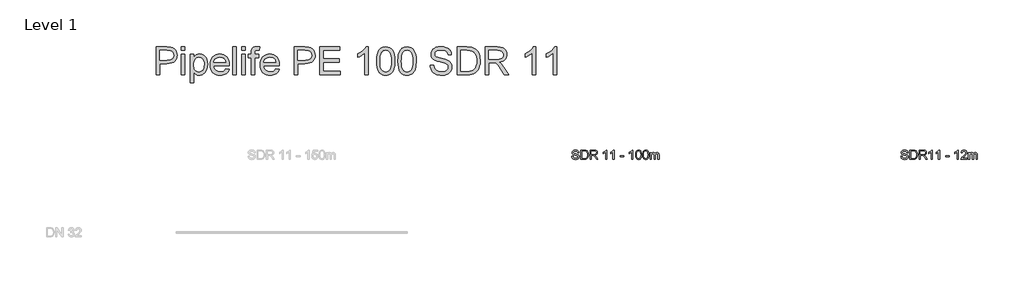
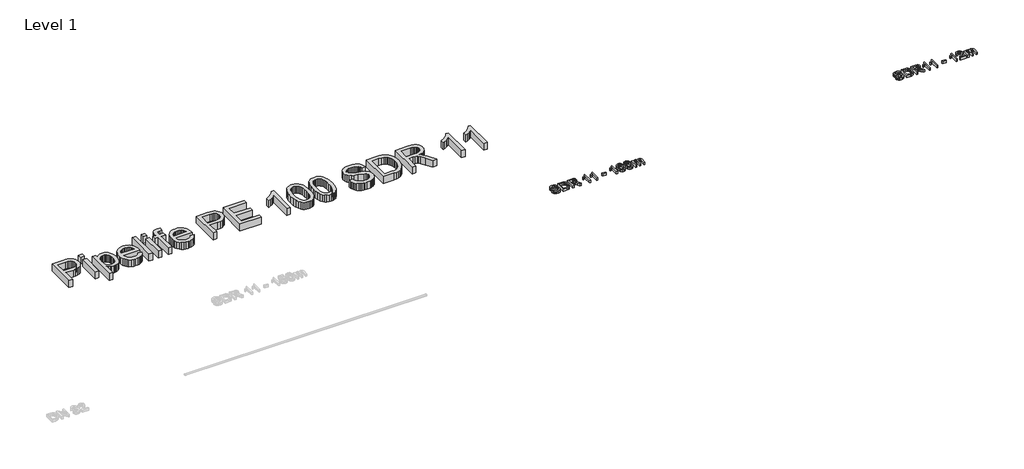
# One storey, part 25 of 26: 3 proxies.
"""IFC4 building model written with IfcOpenShell, lengths in millimetres."""

from ifc_helpers import new_model, si_unit, origin, origin_with_axes, place, context, project, spatial, polyline, outline, extrude, element, save

model = new_model("IFC4")

# Units and contexts
model_context = context("Model", 3, world=origin())
ifc_project = project(units=[si_unit("LENGTHUNIT", "METRE", prefix="MILLI")], contexts=[model_context])

# Site, building, storey
site = spatial("IfcSite", under=ifc_project)
building = spatial("IfcBuilding", under=site)
storey = spatial("IfcBuildingStorey", under=building, Name="Level 1", Elevation=0.0)

# Proxies
placement = place(None, origin())
element("IfcBuildingElementProxy", 1, Name="200mm Arial", ObjectType="200mm Arial", at=placement, inside=storey, context=model_context, shape_type="SweptSolid", body=[
    extrude(outline(polyline([(-7979.1539224, 2231.0128426), (-7954.0398449, 2231.0128426), (-7945.946441, 2205.8742396), (-7937.8162489, 2196.983758), (-7926.1789151, 2189.9817374), (-7911.9541446, 2185.4383947), (-7896.0616424, 2183.9239472), (-7869.8193934, 2188.5102094), (-7852.8722962, 2201.1162991), (-7847.3050153, 2217.9652945), (-7851.4743446, 2233.6370675), (-7857.8264404, 2239.8358791), (-7868.5440692, 2245.0414093), (-7905.1115395, 2254.6308667), (-7944.474913, 2267.0162272), (-7956.9767695, 2275.4652503), (-7965.8365942, 2285.7046325), (-7971.1157008, 2297.5136446), (-7972.875403, 2310.6715573), (-7970.6987679, 2325.3807057), (-7964.1688625, 2339.0965728), (-7953.457365, 2350.7216438), (-7938.7359539, 2359.1584042), (-7921.0653554, 2364.2903581), (-7901.506296, 2366.0010093), (-7880.316293, 2364.2106503), (-7861.7750405, 2358.8395732), (-7846.5447259, 2349.9981425), (-7835.2875368, 2337.796723), (-7828.1628889, 2322.9956041), (-7825.3301975, 2306.3550752), (-7850.444275, 2306.3550752), (-7855.0550627, 2321.3401351), (-7864.6690455, 2332.1558658), (-7879.6908936, 2338.7041653), (-7900.5252773, 2340.8869318), (-7921.8501703, 2338.7286908), (-7936.479611, 2332.2539676), (-7944.9408969, 2322.725824), (-7947.7613255, 2311.4073212), (-7945.7625, 2301.7565502), (-7939.7660235, 2293.9942401), (-7925.5903039, 2287.0535332), (-7898.7594437, 2279.9656734), (-7854.3192987, 2267.3595837), (-7840.0025577, 2258.2483729), (-7830.0145616, 2247.0034466), (-7824.1468437, 2233.7474321), (-7822.1909378, 2218.6029566), (-7824.4411493, 2203.121256), (-7831.1917839, 2188.5592603), (-7842.1669301, 2176.026747), (-7857.0906764, 2166.6334934), (-7875.0371864, 2160.7657756), (-7895.0806238, 2158.8098696), (-7919.6857979, 2160.9190598), (-7939.9377017, 2167.2466301), (-7956.0693272, 2177.8171061), (-7968.3136663, 2192.6550132), (-7976.1740782, 2210.7302819), (-7979.1539224, 2231.0128426)])), origin_with_axes(), (0.0, 0.0, 1.0), 50.0),
    extrude(outline(polyline([(-7784.5198215, 2161.9491293), (-7784.5198215, 2362.8617496), (-7715.2108536, 2362.8617496), (-7679.3546218, 2359.9677446), (-7663.3394923, 2354.388201), (-7649.8259603, 2345.5958213), (-7635.9322836, 2330.2919303), (-7626.036258, 2311.2601685), (-7620.1133578, 2288.8684177), (-7618.1390578, 2263.48456), (-7623.4856095, 2222.9439641), (-7637.2198706, 2193.6850828), (-7655.5649194, 2175.4626613), (-7679.575351, 2165.3826946), (-7711.8753902, 2161.9491293), (-7784.5198215, 2161.9491293)]), holes=[polyline([(-7759.405744, 2187.0632069), (-7714.9655989, 2187.0632069), (-7682.6410343, 2190.6929759), (-7664.0016799, 2200.9446208), (-7655.2767452, 2211.8155338), (-7648.7223143, 2225.8870201), (-7644.6204301, 2243.2203934), (-7643.2531353, 2263.8769675), (-7645.9325425, 2291.2473879), (-7653.9707641, 2311.4563722), (-7665.8472212, 2325.3377861), (-7680.0413349, 2333.7254956), (-7715.652312, 2337.7476721), (-7759.405744, 2337.7476721), (-7759.405744, 2187.0632069)])]), origin_with_axes(), (0.0, 0.0, 1.0), 50.0),
    extrude(outline(polyline([(-7583.6072012, 2161.9491293), (-7583.6072012, 2362.8617496), (-7497.032305, 2362.8617496), (-7473.7637688, 2361.5067176), (-7456.8350657, 2357.4416216), (-7444.4619679, 2349.9368289), (-7434.8602478, 2338.2627069), (-7428.6982244, 2323.7865504), (-7426.6442166, 2307.8756541), (-7430.047125, 2288.0836028), (-7440.2558504, 2271.6760658), (-7457.576961, 2259.6463245), (-7482.3170252, 2252.9876604), (-7468.0432038, 2242.2455062), (-7447.6870667, 2216.3956646), (-7414.1852797, 2161.9491293), (-7443.3705846, 2161.9491293), (-7469.5147318, 2203.5933712), (-7488.3993408, 2231.1599954), (-7501.6676181, 2244.183018), (-7513.6115202, 2248.9654839), (-7528.1796473, 2249.8484007), (-7558.4931237, 2249.8484007), (-7558.4931237, 2161.9491293), (-7583.6072012, 2161.9491293)]), holes=[polyline([(-7558.4931237, 2274.9624783), (-7502.2807548, 2274.9624783), (-7473.6104846, 2278.5186709), (-7464.1804428, 2283.1417213), (-7457.325575, 2289.8984873), (-7451.7582941, 2306.9436864), (-7454.4131759, 2319.1941568), (-7462.377821, 2329.065657), (-7476.0814254, 2335.5771683), (-7495.9531845, 2337.7476721), (-7558.4931237, 2337.7476721), (-7558.4931237, 2274.9624783)])]), origin_with_axes(), (0.0, 0.0, 1.0), 50.0),
    extrude(outline(polyline([(-7219.4530769, 2161.9491293), (-7244.5671544, 2161.9491293), (-7244.5671544, 2318.5197065), (-7268.3568568, 2301.5726092), (-7294.7953095, 2288.8929431), (-7294.7953095, 2312.6335946), (-7257.9825845, 2336.1289913), (-7244.5119721, 2349.7038369), (-7235.6398847, 2362.8617496), (-7219.4530769, 2362.8617496), (-7219.4530769, 2161.9491293)])), origin_with_axes(), (0.0, 0.0, 1.0), 50.0),
    extrude(outline(polyline([(-7065.629352, 2161.9491293), (-7090.7434295, 2161.9491293), (-7090.7434295, 2318.5197065), (-7114.5331319, 2301.5726092), (-7140.9715846, 2288.8929431), (-7140.9715846, 2312.6335946), (-7104.1588596, 2336.1289913), (-7090.6882472, 2349.7038369), (-7081.8161598, 2362.8617496), (-7065.629352, 2362.8617496), (-7065.629352, 2161.9491293)])), origin_with_axes(), (0.0, 0.0, 1.0), 50.0),
    extrude(outline(polyline([(-6933.7804449, 2221.5950635), (-6933.7804449, 2246.709141), (-6855.2989526, 2246.709141), (-6855.2989526, 2221.5950635), (-6933.7804449, 2221.5950635)])), origin_with_axes(), (0.0, 0.0, 1.0), 50.0),
    extrude(outline(polyline([(-6660.6648517, 2161.9491293), (-6685.7789292, 2161.9491293), (-6685.7789292, 2318.5197065), (-6709.5686316, 2301.5726092), (-6736.0070843, 2288.8929431), (-6736.0070843, 2312.6335946), (-6699.1943593, 2336.1289913), (-6685.7237469, 2349.7038369), (-6676.8516595, 2362.8617496), (-6660.6648517, 2362.8617496), (-6660.6648517, 2161.9491293)])), origin_with_axes(), (0.0, 0.0, 1.0), 50.0),
    extrude(outline(polyline([(-6601.0189175, 2260.7867587), (-6599.1733762, 2292.9457765), (-6593.6367522, 2318.5932829), (-6584.4642278, 2338.1216855), (-6571.7109853, 2351.9233917), (-6555.2850542, 2360.1271601), (-6535.094464, 2362.8617496), (-6519.6188947, 2361.2430689), (-6505.7620063, 2356.3870265), (-6494.1737234, 2348.483695), (-6485.5039711, 2337.7231466), (-6473.7317472, 2307.9982814), (-6469.1700105, 2260.7867587), (-6470.9971577, 2228.811682), (-6476.4785994, 2203.2254892), (-6485.5959416, 2183.6786925), (-6498.33079, 2169.821804), (-6514.7935092, 2161.5628532), (-6535.094464, 2158.8098696), (-6561.1895602, 2163.5923356), (-6581.006137, 2177.9397334), (-6589.7617285, 2193.0688805), (-6596.0157224, 2211.919767), (-6601.0189175, 2260.7867587)]), holes=[polyline([(-6575.90484, 2260.8358096), (-6572.961784, 2221.3314147), (-6564.1326162, 2198.4675487), (-6550.9869662, 2187.5598476), (-6535.094464, 2183.9239472), (-6519.2019618, 2187.5721103), (-6506.0563119, 2198.5165997), (-6497.227144, 2221.3927284), (-6494.284088, 2260.8358096), (-6497.1290421, 2299.4511564), (-6505.6639044, 2322.492832), (-6518.7850289, 2333.9339621), (-6535.3887696, 2337.7476721), (-6551.1095935, 2334.3876832), (-6563.7402087, 2324.3077165), (-6572.8636822, 2299.8313011), (-6575.90484, 2260.8358096)])]), origin_with_axes(), (0.0, 0.0, 1.0), 50.0),
    extrude(outline(polyline([(-6447.1951926, 2260.7867587), (-6445.3496513, 2292.9457765), (-6439.8130273, 2318.5932829), (-6430.6405028, 2338.1216855), (-6417.8872603, 2351.9233917), (-6401.4613293, 2360.1271601), (-6381.2707391, 2362.8617496), (-6365.7951698, 2361.2430689), (-6351.9382813, 2356.3870265), (-6340.3499985, 2348.483695), (-6331.6802461, 2337.7231466), (-6319.9080223, 2307.9982814), (-6315.3462856, 2260.7867587), (-6317.1734328, 2228.811682), (-6322.6548745, 2203.2254892), (-6331.7722166, 2183.6786925), (-6344.507065, 2169.821804), (-6360.9697843, 2161.5628532), (-6381.2707391, 2158.8098696), (-6407.3658353, 2163.5923356), (-6427.1824121, 2177.9397334), (-6435.9380036, 2193.0688805), (-6442.1919975, 2211.919767), (-6447.1951926, 2260.7867587)]), holes=[polyline([(-6422.0811151, 2260.8358096), (-6419.1380591, 2221.3314147), (-6410.3088912, 2198.4675487), (-6397.1632413, 2187.5598476), (-6381.2707391, 2183.9239472), (-6365.3782369, 2187.5721103), (-6352.2325869, 2198.5165997), (-6343.4034191, 2221.3927284), (-6340.4603631, 2260.8358096), (-6343.3053172, 2299.4511564), (-6351.8401795, 2322.492832), (-6364.961304, 2333.9339621), (-6381.5650447, 2337.7476721), (-6397.2858686, 2334.3876832), (-6409.9164838, 2324.3077165), (-6419.0399573, 2299.8313011), (-6422.0811151, 2260.8358096)])]), origin_with_axes(), (0.0, 0.0, 1.0), 50.0),
    extrude(outline(polyline([(-6287.0929483, 2161.9491293), (-6287.0929483, 2309.4943349), (-6261.9788708, 2309.4943349), (-6261.9788708, 2285.2141232), (-6254.4250272, 2296.367079), (-6244.7129425, 2305.1042764), (-6233.1737106, 2310.751265), (-6220.1384252, 2312.6335946), (-6206.1711721, 2310.7144768), (-6194.9752967, 2304.9571236), (-6186.6121127, 2295.7416796), (-6181.1429337, 2283.4482896), (-6171.9888034, 2296.2168605), (-6161.5470861, 2305.3372683), (-6149.8177818, 2310.809513), (-6136.8008906, 2312.6335946), (-6117.9224128, 2309.5985681), (-6103.9612911, 2300.4934887), (-6095.3344583, 2285.0731018), (-6092.4588474, 2263.0921525), (-6092.4588474, 2161.9491293), (-6117.5729249, 2161.9491293), (-6117.5729249, 2252.3009474), (-6119.9028442, 2273.2702211), (-6128.3396047, 2283.5954424), (-6142.6870025, 2287.519517), (-6156.2925049, 2285.0056567), (-6167.3841471, 2277.4640758), (-6174.7601811, 2264.3797395), (-6177.2188591, 2245.237613), (-6177.2188591, 2161.9491293), (-6202.3329366, 2161.9491293), (-6202.3329366, 2255.0968505), (-6203.7860705, 2269.2970955), (-6208.1454722, 2279.4261131), (-6215.8158118, 2285.4961661), (-6227.2017595, 2287.519517), (-6245.792063, 2282.1239144), (-6253.1497029, 2275.4775131), (-6258.152898, 2266.3295141), (-6261.9788708, 2236.3593942), (-6261.9788708, 2161.9491293), (-6287.0929483, 2161.9491293)])), origin_with_axes(), (0.0, 0.0, 1.0), 50.0),
])
element("IfcBuildingElementProxy", 2, Name="200mm Arial", ObjectType="200mm Arial", at=placement, inside=storey, context=model_context, shape_type="SweptSolid", body=[
    extrude(outline(polyline([(-863.0013138, 2231.0128426), (-837.8872363, 2231.0128426), (-829.7938324, 2205.8742396), (-821.6636403, 2196.983758), (-810.0263065, 2189.9817374), (-795.801536, 2185.4383947), (-779.9090338, 2183.9239472), (-753.6667848, 2188.5102094), (-736.7196876, 2201.1162991), (-731.1524067, 2217.9652945), (-735.321736, 2233.6370675), (-741.6738318, 2239.8358791), (-752.3914606, 2245.0414093), (-788.9589309, 2254.6308667), (-828.3223044, 2267.0162272), (-840.8241609, 2275.4652503), (-849.6839856, 2285.7046325), (-854.9630922, 2297.5136446), (-856.7227944, 2310.6715573), (-854.5461593, 2325.3807057), (-848.0162539, 2339.0965728), (-837.3047564, 2350.7216438), (-822.5833453, 2359.1584042), (-804.9127468, 2364.2903581), (-785.3536873, 2366.0010093), (-764.1636844, 2364.2106503), (-745.6224319, 2358.8395732), (-730.3921173, 2349.9981425), (-719.1349282, 2337.796723), (-712.0102802, 2322.9956041), (-709.1775889, 2306.3550752), (-734.2916664, 2306.3550752), (-738.9024541, 2321.3401351), (-748.5164369, 2332.1558658), (-763.538285, 2338.7041653), (-784.3726687, 2340.8869318), (-805.6975617, 2338.7286908), (-820.3270024, 2332.2539676), (-828.7882882, 2322.725824), (-831.6087169, 2311.4073212), (-829.6098914, 2301.7565502), (-823.6134148, 2293.9942401), (-809.4376953, 2287.0535332), (-782.6068351, 2279.9656734), (-738.1666901, 2267.3595837), (-723.8499491, 2258.2483729), (-713.861953, 2247.0034466), (-707.9942351, 2233.7474321), (-706.0383292, 2218.6029566), (-708.2885407, 2203.121256), (-715.0391753, 2188.5592603), (-726.0143215, 2176.026747), (-740.9380678, 2166.6334934), (-758.8845778, 2160.7657756), (-778.9280152, 2158.8098696), (-803.5331893, 2160.9190598), (-823.7850931, 2167.2466301), (-839.9167186, 2177.8171061), (-852.1610577, 2192.6550132), (-860.0214696, 2210.7302819), (-863.0013138, 2231.0128426)])), origin_with_axes(), (0.0, 0.0, 1.0), 50.0),
    extrude(outline(polyline([(-668.3672129, 2161.9491293), (-668.3672129, 2362.8617496), (-599.058245, 2362.8617496), (-563.2020132, 2359.9677446), (-547.1868837, 2354.388201), (-533.6733517, 2345.5958213), (-519.779675, 2330.2919303), (-509.8836494, 2311.2601685), (-503.9607492, 2288.8684177), (-501.9864492, 2263.48456), (-507.3330009, 2222.9439641), (-521.067262, 2193.6850828), (-539.4123108, 2175.4626613), (-563.4227424, 2165.3826946), (-595.7227816, 2161.9491293), (-668.3672129, 2161.9491293)]), holes=[polyline([(-643.2531353, 2187.0632069), (-598.8129903, 2187.0632069), (-566.4884257, 2190.6929759), (-547.8490713, 2200.9446208), (-539.1241366, 2211.8155338), (-532.5697057, 2225.8870201), (-528.4678215, 2243.2203934), (-527.1005267, 2263.8769675), (-529.7799339, 2291.2473879), (-537.8181555, 2311.4563722), (-549.6946126, 2325.3377861), (-563.8887263, 2333.7254956), (-599.4997034, 2337.7476721), (-643.2531353, 2337.7476721), (-643.2531353, 2187.0632069)])]), origin_with_axes(), (0.0, 0.0, 1.0), 50.0),
    extrude(outline(polyline([(-467.4545926, 2161.9491293), (-467.4545926, 2362.8617496), (-380.8796964, 2362.8617496), (-357.6111602, 2361.5067176), (-340.682457, 2357.4416216), (-328.3093593, 2349.9368289), (-318.7076392, 2338.2627069), (-312.5456158, 2323.7865504), (-310.491608, 2307.8756541), (-313.8945164, 2288.0836028), (-324.1032418, 2271.6760658), (-341.4243524, 2259.6463245), (-366.1644166, 2252.9876604), (-351.8905952, 2242.2455062), (-331.5344581, 2216.3956646), (-298.0326711, 2161.9491293), (-327.217976, 2161.9491293), (-353.3621231, 2203.5933712), (-372.2467322, 2231.1599954), (-385.5150095, 2244.183018), (-397.4589116, 2248.9654839), (-412.0270386, 2249.8484007), (-442.340515, 2249.8484007), (-442.340515, 2161.9491293), (-467.4545926, 2161.9491293)]), holes=[polyline([(-442.340515, 2274.9624783), (-386.1281462, 2274.9624783), (-357.457876, 2278.5186709), (-348.0278342, 2283.1417213), (-341.1729664, 2289.8984873), (-335.6056855, 2306.9436864), (-338.2605672, 2319.1941568), (-346.2252124, 2329.065657), (-359.9288168, 2335.5771683), (-379.8005759, 2337.7476721), (-442.340515, 2337.7476721), (-442.340515, 2274.9624783)])]), origin_with_axes(), (0.0, 0.0, 1.0), 50.0),
    extrude(outline(polyline([(-181.7819606, 2161.9491293), (-206.8960381, 2161.9491293), (-206.8960381, 2318.5197065), (-230.6857405, 2301.5726092), (-257.1241932, 2288.8929431), (-257.1241932, 2312.6335946), (-220.3114682, 2336.1289913), (-206.8408558, 2349.7038369), (-197.9687684, 2362.8617496), (-181.7819606, 2362.8617496), (-181.7819606, 2161.9491293)])), origin_with_axes(), (0.0, 0.0, 1.0), 50.0),
    extrude(outline(polyline([(-27.9582357, 2161.9491293), (-53.0723132, 2161.9491293), (-53.0723132, 2318.5197065), (-76.8620156, 2301.5726092), (-103.3004683, 2288.8929431), (-103.3004683, 2312.6335946), (-66.4877433, 2336.1289913), (-53.0171309, 2349.7038369), (-44.1450435, 2362.8617496), (-27.9582357, 2362.8617496), (-27.9582357, 2161.9491293)])), origin_with_axes(), (0.0, 0.0, 1.0), 50.0),
    extrude(outline(polyline([(103.8906714, 2221.5950635), (103.8906714, 2246.709141), (182.3721637, 2246.709141), (182.3721637, 2221.5950635), (103.8906714, 2221.5950635)])), origin_with_axes(), (0.0, 0.0, 1.0), 50.0),
    extrude(outline(polyline([(377.0062646, 2161.9491293), (351.8921871, 2161.9491293), (351.8921871, 2318.5197065), (328.1024847, 2301.5726092), (301.664032, 2288.8929431), (301.664032, 2312.6335946), (338.476757, 2336.1289913), (351.9473694, 2349.7038369), (360.8194568, 2362.8617496), (377.0062646, 2362.8617496), (377.0062646, 2161.9491293)])), origin_with_axes(), (0.0, 0.0, 1.0), 50.0),
    extrude(outline(polyline([(565.3618461, 2187.0632069), (565.3618461, 2161.9491293), (433.5129391, 2161.9491293), (436.2107404, 2179.2641086), (451.4655804, 2205.9232905), (482.9072283, 2235.0350191), (526.2682528, 2276.8754646), (534.3984449, 2291.2964388), (537.1085089, 2305.3250056), (534.551729, 2317.9004385), (526.8813894, 2328.3544185), (515.0907715, 2335.3993587), (500.1731566, 2337.7476721), (484.507515, 2335.454541), (472.3367523, 2328.5751477), (464.4824717, 2317.6490524), (461.7662763, 2303.2158155), (436.6521988, 2306.3550752), (442.7406458, 2330.6475496), (455.9046898, 2348.3917245), (475.4576179, 2359.2442434), (500.7127169, 2362.8617496), (526.1517568, 2358.8395732), (545.6678967, 2346.7730437), (558.083914, 2328.746826), (562.2225865, 2306.8455845), (557.7589516, 2283.0313567), (542.9210444, 2258.4077885), (506.9421853, 2223.9985592), (478.051186, 2199.8409748), (466.7204205, 2187.0632069), (565.3618461, 2187.0632069)])), origin_with_axes(), (0.0, 0.0, 1.0), 50.0),
    extrude(outline(polyline([(596.7544431, 2161.9491293), (596.7544431, 2309.4943349), (621.8685206, 2309.4943349), (621.8685206, 2285.2141232), (629.4223642, 2296.367079), (639.1344489, 2305.1042764), (650.6736808, 2310.751265), (663.7089662, 2312.6335946), (677.6762193, 2310.7144768), (688.8720947, 2304.9571236), (697.2352787, 2295.7416796), (702.7044577, 2283.4482896), (711.858588, 2296.2168605), (722.3003053, 2305.3372683), (734.0296096, 2310.809513), (747.0465008, 2312.6335946), (765.9249785, 2309.5985681), (779.8861003, 2300.4934887), (788.5129331, 2285.0731018), (791.388544, 2263.0921525), (791.388544, 2161.9491293), (766.2744664, 2161.9491293), (766.2744664, 2252.3009474), (763.9445471, 2273.2702211), (755.5077867, 2283.5954424), (741.1603889, 2287.519517), (727.5548865, 2285.0056567), (716.4632443, 2277.4640758), (709.0872103, 2264.3797395), (706.6285323, 2245.237613), (706.6285323, 2161.9491293), (681.5144548, 2161.9491293), (681.5144548, 2255.0968505), (680.0613209, 2269.2970955), (675.7019192, 2279.4261131), (668.0315796, 2285.4961661), (656.6456319, 2287.519517), (638.0553284, 2282.1239144), (630.6976885, 2275.4775131), (625.6944934, 2266.3295141), (621.8685206, 2236.3593942), (621.8685206, 2161.9491293), (596.7544431, 2161.9491293)])), origin_with_axes(), (0.0, 0.0, 1.0), 50.0),
])
element("IfcBuildingElementProxy", 3, Name="600mm Arial", ObjectType="600mm Arial", at=placement, inside=storey, context=model_context, shape_type="SweptSolid", body=[
    extrude(outline(polyline([(-16966.7426717, 3990.4626098), (-16966.7426717, 4593.2004707), (-16743.3647242, 4593.2004707), (-16691.3462101, 4591.7657309), (-16653.3072118, 4587.4615116), (-16613.152892, 4576.7377514), (-16580.0986947, 4559.2817508), (-16553.4824324, 4534.3025633), (-16532.6419174, 4501.0092427), (-16519.1774363, 4461.7378398), (-16514.689276, 4418.824405), (-16517.7197039, 4381.8246734), (-16526.8109877, 4347.7863917), (-16541.9631274, 4316.7095602), (-16563.176123, 4288.5941787), (-16592.2985814, 4265.2888543), (-16631.1791098, 4248.642194), (-16679.8177081, 4238.6541979), (-16738.2143763, 4235.3248658), (-16891.4004391, 4235.3248658), (-16891.4004391, 3990.4626098), (-16966.7426717, 3990.4626098)]), holes=[polyline([(-16891.4004391, 4310.6670984), (-16733.7997923, 4310.6670984), (-16697.5634158, 4312.3961438), (-16666.992422, 4317.5832799), (-16642.0868109, 4326.2285068), (-16622.8465826, 4338.3318245), (-16608.4899877, 4353.5713361), (-16598.2352771, 4371.625145), (-16592.0824507, 4392.4932512), (-16590.0315086, 4416.1756547), (-16594.8691569, 4450.0207982), (-16609.3821016, 4478.568441), (-16631.767721, 4500.0527496), (-16660.2233933, 4512.7078902), (-16689.2860709, 4516.5706511), (-16735.5656259, 4517.8582381), (-16891.4004391, 4517.8582381), (-16891.4004391, 4310.6670984)])]), origin_with_axes(), (0.0, 0.0, 1.0), 150.0),
    extrude(outline(polyline([(-16420.5114852, 3990.4626098), (-16420.5114852, 4433.0982264), (-16345.1692526, 4433.0982264), (-16345.1692526, 3990.4626098), (-16420.5114852, 3990.4626098)])), origin_with_axes(), (0.0, 0.0, 1.0), 150.0),
    extrude(outline(polyline([(-16420.5114852, 4517.8582381), (-16420.5114852, 4593.2004707), (-16345.1692526, 4593.2004707), (-16345.1692526, 4517.8582381), (-16420.5114852, 4517.8582381)])), origin_with_axes(), (0.0, 0.0, 1.0), 150.0),
    extrude(outline(polyline([(-16232.1559037, 3820.9425865), (-16232.1559037, 4433.0982264), (-16156.8136711, 4433.0982264), (-16156.8136711, 4359.2275218), (-16132.2391538, 4395.6662334), (-16104.7215806, 4421.6938846), (-16072.6422706, 4437.3104753), (-16034.3825431, 4442.5160055), (-16008.1065716, 4440.6949896), (-15983.4308868, 4435.231942), (-15960.3554886, 4426.1268626), (-15938.8803772, 4413.3797515), (-15919.4746019, 4397.3217024), (-15902.6072124, 4378.2838091), (-15888.2782087, 4356.2660717), (-15876.4875908, 4331.2684902), (-15860.7054532, 4275.7550971), (-15855.4447407, 4215.1649325), (-15861.3860349, 4150.730401), (-15868.8126526, 4121.0653166), (-15879.2099175, 4093.1016865), (-15892.4352753, 4067.570676), (-15908.3461716, 4045.2034507), (-15926.9426064, 4026.0000106), (-15948.2245798, 4009.9603556), (-15971.1482267, 3997.3098135), (-15994.6696817, 3988.273712), (-16018.788945, 3982.8520511), (-16043.5060166, 3981.0448308), (-16078.1421064, 3985.882479), (-16109.0625881, 4000.3954237), (-16135.5316977, 4022.3027965), (-16156.8136711, 4049.3237291), (-16156.8136711, 3820.9425865), (-16232.1559037, 3820.9425865)]), holes=[polyline([(-16156.8136711, 4208.248751), (-16154.7765246, 4171.9387981), (-16148.6650849, 4140.7056167), (-16138.4793522, 4114.5492068), (-16124.2193263, 4093.4695685), (-16107.0530327, 4077.2459725), (-16088.1484967, 4065.6576896), (-16067.5057182, 4058.7047199), (-16045.1246974, 4056.3870634), (-16022.4217797, 4058.7874934), (-16001.4019222, 4065.9887834), (-15982.0651249, 4077.9909335), (-15964.4113876, 4094.7939437), (-15949.7007063, 4116.6369371), (-15939.1930769, 4143.7590372), (-15932.8884992, 4176.1602439), (-15930.7869733, 4213.8405573), (-15932.8379154, 4249.8378105), (-15938.9907418, 4281.0158096), (-15949.2454524, 4307.3745546), (-15963.6020472, 4328.9140454), (-15980.8097276, 4345.6526762), (-15999.6176946, 4357.608841), (-16020.0259482, 4364.7825399), (-16042.0344886, 4367.1737729), (-16063.9740511, 4364.6307886), (-16084.6168295, 4357.0018357), (-16103.962824, 4344.2869143), (-16122.0120344, 4326.4860242), (-16137.2377504, 4303.8382889), (-16148.1132619, 4276.5828316), (-16154.6385688, 4244.7196523), (-16156.8136711, 4208.248751)])]), origin_with_axes(), (0.0, 0.0, 1.0), 150.0),
    extrude(outline(polyline([(-15460.7809362, 4122.3115169), (-15386.9102316, 4112.8937378), (-15398.2363985, 4083.3068284), (-15413.5264939, 4057.233192), (-15432.7805179, 4034.6728286), (-15455.9984703, 4015.6257383), (-15482.9412279, 4000.4965913), (-15513.3696674, 3989.6900576), (-15547.2837889, 3983.2061375), (-15584.6835922, 3981.0448308), (-15631.4321967, 3984.7742345), (-15673.0856356, 3995.9624457), (-15709.6439089, 4014.6094643), (-15741.1070165, 4040.7152904), (-15766.4081008, 4073.553357), (-15784.4803038, 4112.3970971), (-15795.3236256, 4157.2465109), (-15798.9380662, 4208.1015982), (-15795.2868374, 4260.6811323), (-15784.333151, 4307.0250667), (-15766.077007, 4347.1334012), (-15740.5184054, 4381.0061359), (-15709.1380712, 4407.9167039), (-15673.4167294, 4427.1385381), (-15633.3543802, 4438.6716387), (-15588.9510233, 4442.5160055), (-15545.9778078, 4438.6808357), (-15507.1156735, 4427.1753263), (-15472.3646205, 4407.9994773), (-15441.7246489, 4381.1532887), (-15416.7132717, 4347.3541304), (-15398.8480023, 4307.3193723), (-15388.1288407, 4261.0490143), (-15384.5557868, 4208.5430566), (-15384.9972452, 4188.2359704), (-15723.5958336, 4188.2359704), (-15719.2318334, 4158.1708144), (-15710.5544168, 4131.8396606), (-15697.5635839, 4109.242509), (-15680.2593345, 4090.3793597), (-15659.598162, 4075.5077301), (-15636.5365594, 4064.8851375), (-15611.0745268, 4058.5115819), (-15583.2120642, 4056.3870634), (-15543.1129267, 4060.3234007), (-15509.3413596, 4072.1324128), (-15481.8973627, 4092.5498635), (-15460.7809362, 4122.3115169)]), holes=[polyline([(-15723.5958336, 4263.5782031), (-15459.8980194, 4263.5782031), (-15470.0883507, 4303.3830349), (-15478.8531392, 4319.0364138), (-15490.064343, 4331.8571014), (-15510.6105525, 4347.3081452), (-15533.9894533, 4358.344605), (-15560.2010454, 4364.9664809), (-15589.2453289, 4367.1737729), (-15615.7374311, 4365.4125378), (-15640.0314384, 4360.1288327), (-15662.1273507, 4351.3226574), (-15682.0251681, 4338.9940121), (-15698.7224122, 4323.7131137), (-15711.2166044, 4306.0501794), (-15719.5077449, 4286.0052092), (-15723.5958336, 4263.5782031)])]), origin_with_axes(), (0.0, 0.0, 1.0), 150.0),
    extrude(outline(polyline([(-15309.2135542, 3990.4626098), (-15309.2135542, 4593.2004707), (-15233.8713216, 4593.2004707), (-15233.8713216, 3990.4626098), (-15309.2135542, 3990.4626098)])), origin_with_axes(), (0.0, 0.0, 1.0), 150.0),
    extrude(outline(polyline([(-15120.8579727, 4517.8582381), (-15120.8579727, 4593.2004707), (-15045.5157401, 4593.2004707), (-15045.5157401, 4517.8582381), (-15120.8579727, 4517.8582381)])), origin_with_axes(), (0.0, 0.0, 1.0), 150.0),
    extrude(outline(polyline([(-15120.8579727, 3990.4626098), (-15120.8579727, 4433.0982264), (-15045.5157401, 4433.0982264), (-15045.5157401, 3990.4626098), (-15120.8579727, 3990.4626098)])), origin_with_axes(), (0.0, 0.0, 1.0), 150.0),
    extrude(outline(polyline([(-14913.666833, 3990.4626098), (-14913.666833, 4357.7559938), (-14979.5912865, 4357.7559938), (-14979.5912865, 4433.0982264), (-14913.666833, 4433.0982264), (-14913.666833, 4477.6855242), (-14911.6802702, 4514.5840884), (-14905.7205819, 4540.519769), (-14890.5638437, 4565.5725329), (-14867.1665488, 4585.4013724), (-14834.4250512, 4598.3140305), (-14791.235705, 4602.6182498), (-14758.5309956, 4600.5581106), (-14722.5153483, 4594.3776931), (-14733.5518082, 4523.74435), (-14776.9618836, 4527.2760172), (-14805.6014969, 4524.1490202), (-14824.418661, 4514.7680294), (-14834.8481155, 4496.8521762), (-14838.3246004, 4468.1205924), (-14838.3246004, 4433.0982264), (-14753.5645887, 4433.0982264), (-14753.5645887, 4357.7559938), (-14838.3246004, 4357.7559938), (-14838.3246004, 3990.4626098), (-14913.666833, 3990.4626098)])), origin_with_axes(), (0.0, 0.0, 1.0), 150.0),
    extrude(outline(polyline([(-14377.7363424, 4122.3115169), (-14303.8656378, 4112.8937378), (-14315.1918047, 4083.3068284), (-14330.4819001, 4057.233192), (-14349.7359241, 4034.6728286), (-14372.9538765, 4015.6257383), (-14399.8966341, 4000.4965913), (-14430.3250736, 3989.6900576), (-14464.2391951, 3983.2061375), (-14501.6389984, 3981.0448308), (-14548.3876029, 3984.7742345), (-14590.0410418, 3995.9624457), (-14626.5993151, 4014.6094643), (-14658.0624227, 4040.7152904), (-14683.363507, 4073.553357), (-14701.43571, 4112.3970971), (-14712.2790318, 4157.2465109), (-14715.8934724, 4208.1015982), (-14712.2422436, 4260.6811323), (-14701.2885572, 4307.0250667), (-14683.0324132, 4347.1334012), (-14657.4738116, 4381.0061359), (-14626.0934774, 4407.9167039), (-14590.3721356, 4427.1385381), (-14550.3097864, 4438.6716387), (-14505.9064295, 4442.5160055), (-14462.933214, 4438.6808357), (-14424.0710797, 4427.1753263), (-14389.3200267, 4407.9994773), (-14358.6800551, 4381.1532887), (-14333.6686779, 4347.3541304), (-14315.8034085, 4307.3193723), (-14305.0842469, 4261.0490143), (-14301.511193, 4208.5430566), (-14301.9526514, 4188.2359704), (-14640.5512398, 4188.2359704), (-14636.1872396, 4158.1708144), (-14627.509823, 4131.8396606), (-14614.5189901, 4109.242509), (-14597.2147407, 4090.3793597), (-14576.5535682, 4075.5077301), (-14553.4919656, 4064.8851375), (-14528.029933, 4058.5115819), (-14500.1674704, 4056.3870634), (-14460.0683329, 4060.3234007), (-14426.2967658, 4072.1324128), (-14398.8527689, 4092.5498635), (-14377.7363424, 4122.3115169)]), holes=[polyline([(-14640.5512398, 4263.5782031), (-14376.8534256, 4263.5782031), (-14387.0437569, 4303.3830349), (-14395.8085454, 4319.0364138), (-14407.0197492, 4331.8571014), (-14427.5659587, 4347.3081452), (-14450.9448595, 4358.344605), (-14477.1564516, 4364.9664809), (-14506.2007351, 4367.1737729), (-14532.6928373, 4365.4125378), (-14556.9868446, 4360.1288327), (-14579.0827569, 4351.3226574), (-14598.9805743, 4338.9940121), (-14615.6778184, 4323.7131137), (-14628.1720106, 4306.0501794), (-14636.4631511, 4286.0052092), (-14640.5512398, 4263.5782031)])]), origin_with_axes(), (0.0, 0.0, 1.0), 150.0),
    extrude(outline(polyline([(-13981.3067044, 3990.4626098), (-13981.3067044, 4593.2004707), (-13757.928757, 4593.2004707), (-13705.9102428, 4591.7657309), (-13667.8712445, 4587.4615116), (-13627.7169248, 4576.7377514), (-13594.6627275, 4559.2817508), (-13568.0464651, 4534.3025633), (-13547.2059501, 4501.0092427), (-13533.7414691, 4461.7378398), (-13529.2533087, 4418.824405), (-13532.2837367, 4381.8246734), (-13541.3750205, 4347.7863917), (-13556.5271602, 4316.7095602), (-13577.7401557, 4288.5941787), (-13606.8626142, 4265.2888543), (-13645.7431425, 4248.642194), (-13694.3817408, 4238.6541979), (-13752.778409, 4235.3248658), (-13905.9644718, 4235.3248658), (-13905.9644718, 3990.4626098), (-13981.3067044, 3990.4626098)]), holes=[polyline([(-13905.9644718, 4310.6670984), (-13748.3638251, 4310.6670984), (-13712.1274486, 4312.3961438), (-13681.5564548, 4317.5832799), (-13656.6508437, 4326.2285068), (-13637.4106153, 4338.3318245), (-13623.0540205, 4353.5713361), (-13612.7993099, 4371.625145), (-13606.6464835, 4392.4932512), (-13604.5955414, 4416.1756547), (-13609.4331896, 4450.0207982), (-13623.9461343, 4478.568441), (-13646.3317537, 4500.0527496), (-13674.787426, 4512.7078902), (-13703.8501037, 4516.5706511), (-13750.1296587, 4517.8582381), (-13905.9644718, 4517.8582381), (-13905.9644718, 4310.6670984)])]), origin_with_axes(), (0.0, 0.0, 1.0), 150.0),
    extrude(outline(polyline([(-13425.6577389, 3990.4626098), (-13425.6577389, 4593.2004707), (-12992.4399014, 4593.2004707), (-12992.4399014, 4517.8582381), (-13350.3155063, 4517.8582381), (-13350.3155063, 4338.9204357), (-13011.2754595, 4338.9204357), (-13011.2754595, 4263.5782031), (-13350.3155063, 4263.5782031), (-13350.3155063, 4065.8048424), (-12983.0221223, 4065.8048424), (-12983.0221223, 3990.4626098), (-13425.6577389, 3990.4626098)])), origin_with_axes(), (0.0, 0.0, 1.0), 150.0),
    extrude(outline(polyline([(-12380.2842614, 3990.4626098), (-12455.626494, 3990.4626098), (-12455.626494, 4460.1743413), (-12487.0804046, 4434.7353013), (-12526.9956011, 4409.3330495), (-12568.8973603, 4387.1313711), (-12606.3109592, 4371.2940512), (-12606.3109592, 4442.5160055), (-12547.1371403, 4474.7056801), (-12495.8727843, 4513.0021958), (-12455.4609471, 4553.7267326), (-12428.8446848, 4593.2004707), (-12380.2842614, 4593.2004707), (-12380.2842614, 3990.4626098)])), origin_with_axes(), (0.0, 0.0, 1.0), 150.0),
    extrude(outline(polyline([(-12201.346459, 4286.9754979), (-12195.8098349, 4383.4525512), (-12188.8890549, 4424.3656276), (-12179.1999628, 4460.3950705), (-12166.7839455, 4491.8351855), (-12151.6823896, 4518.9802782), (-12133.8952951, 4541.8303486), (-12113.4226621, 4560.3853968), (-12090.1955126, 4574.7419916), (-12064.1448689, 4584.9967022), (-12035.2707308, 4591.1495286), (-12003.5730984, 4593.2004707), (-11957.1463906, 4588.3444284), (-11915.5757251, 4573.7763014), (-11880.8108766, 4550.0663068), (-11854.8016195, 4517.7846617), (-11835.156721, 4477.2072777), (-11819.484948, 4428.6100661), (-11809.2210403, 4366.8978614), (-11805.7997377, 4286.9754979), (-11811.2811795, 4191.0502677), (-11818.1329816, 4150.2751471), (-11827.7255047, 4114.2916894), (-11840.044953, 4082.8377788), (-11855.077531, 4055.6512994), (-11872.8232387, 4032.7322511), (-11893.2820762, 4014.0806339), (-11916.5368168, 3999.62747), (-11942.670234, 3989.3037815), (-11971.6823279, 3983.1095685), (-12003.5730984, 3981.0448308), (-12045.0701874, 3984.6316802), (-12081.8583869, 3995.3922286), (-12113.9376969, 4013.3264758), (-12141.3081173, 4038.434422), (-12167.5748918, 4083.8218632), (-12186.3368736, 4140.3745229), (-12197.5940626, 4208.0924011), (-12201.346459, 4286.9754979)]), holes=[polyline([(-12126.0042263, 4287.1226507), (-12123.7969344, 4221.62586), (-12117.1750585, 4168.609466), (-12106.1385986, 4128.0734687), (-12090.6875548, 4100.017868), (-12071.9991495, 4080.929391), (-12051.2506049, 4067.2947645), (-12028.4419212, 4059.1139887), (-12003.5730984, 4056.3870634), (-11978.7042755, 4059.1231857), (-11955.8955918, 4067.3315527), (-11935.1470472, 4081.0121644), (-11916.4586419, 4100.1650208), (-11901.0075981, 4128.2666067), (-11889.9711382, 4168.793407), (-11883.3492623, 4221.7454217), (-11881.1419704, 4287.1226507), (-11883.2756859, 4350.8857976), (-11889.6768326, 4402.968691), (-11900.3454105, 4443.3713311), (-11915.2814195, 4472.0937179), (-11933.6571252, 4492.1156955), (-11954.644793, 4506.4171081), (-11978.244423, 4514.9979556), (-12004.4560151, 4517.8582381), (-12029.1960793, 4515.3382465), (-12051.6184869, 4507.7782714), (-12071.723238, 4495.1783131), (-12089.5103324, 4477.5383714), (-12105.476411, 4446.2684019), (-12116.8807529, 4404.1091252), (-12123.723358, 4351.0605415), (-12126.0042263, 4287.1226507)])]), origin_with_axes(), (0.0, 0.0, 1.0), 150.0),
    extrude(outline(polyline([(-11739.8752842, 4286.9754979), (-11734.3386602, 4383.4525512), (-11727.4178801, 4424.3656276), (-11717.7287881, 4460.3950705), (-11705.3127708, 4491.8351855), (-11690.2112149, 4518.9802782), (-11672.4241204, 4541.8303486), (-11651.9514874, 4560.3853968), (-11628.7243379, 4574.7419916), (-11602.6736941, 4584.9967022), (-11573.799556, 4591.1495286), (-11542.1019236, 4593.2004707), (-11495.6752158, 4588.3444284), (-11454.1045504, 4573.7763014), (-11419.3397018, 4550.0663068), (-11393.3304448, 4517.7846617), (-11373.6855462, 4477.2072777), (-11358.0137732, 4428.6100661), (-11347.7498655, 4366.8978614), (-11344.328563, 4286.9754979), (-11349.8100047, 4191.0502677), (-11356.6618069, 4150.2751471), (-11366.2543299, 4114.2916894), (-11378.5737782, 4082.8377788), (-11393.6063562, 4055.6512994), (-11411.352064, 4032.7322511), (-11431.8109014, 4014.0806339), (-11455.0656421, 3999.62747), (-11481.1990593, 3989.3037815), (-11510.2111531, 3983.1095685), (-11542.1019236, 3981.0448308), (-11583.5990127, 3984.6316802), (-11620.3872122, 3995.3922286), (-11652.4665222, 4013.3264758), (-11679.8369426, 4038.434422), (-11706.1037171, 4083.8218632), (-11724.8656988, 4140.3745229), (-11736.1228879, 4208.0924011), (-11739.8752842, 4286.9754979)]), holes=[polyline([(-11664.5330516, 4287.1226507), (-11662.3257596, 4221.62586), (-11655.7038837, 4168.609466), (-11644.6674239, 4128.0734687), (-11629.2163801, 4100.017868), (-11610.5279747, 4080.929391), (-11589.7794302, 4067.2947645), (-11566.9707465, 4059.1139887), (-11542.1019236, 4056.3870634), (-11517.2331007, 4059.1231857), (-11494.424417, 4067.3315527), (-11473.6758725, 4081.0121644), (-11454.9874671, 4100.1650208), (-11439.5364233, 4128.2666067), (-11428.4999635, 4168.793407), (-11421.8780876, 4221.7454217), (-11419.6707956, 4287.1226507), (-11421.8045112, 4350.8857976), (-11428.2056579, 4402.968691), (-11438.8742358, 4443.3713311), (-11453.8102448, 4472.0937179), (-11472.1859504, 4492.1156955), (-11493.1736182, 4506.4171081), (-11516.7732482, 4514.9979556), (-11542.9848404, 4517.8582381), (-11567.7249046, 4515.3382465), (-11590.1473122, 4507.7782714), (-11610.2520632, 4495.1783131), (-11628.0391577, 4477.5383714), (-11644.0052363, 4446.2684019), (-11655.4095781, 4404.1091252), (-11662.2521832, 4351.0605415), (-11664.5330516, 4287.1226507)])]), origin_with_axes(), (0.0, 0.0, 1.0), 150.0),
    extrude(outline(polyline([(-11042.9596325, 4197.6537495), (-10967.6173999, 4197.6537495), (-10958.972173, 4155.8439608), (-10943.3371883, 4122.2379405), (-10918.946612, 4095.5664959), (-10884.0346106, 4074.5604339), (-10841.3602992, 4060.930406), (-10793.6827926, 4056.3870634), (-10751.707457, 4059.82676), (-10714.9560456, 4070.14585), (-10685.1759981, 4086.4798106), (-10664.1147539, 4107.9641191), (-10651.588372, 4132.6306069), (-10647.4129113, 4158.5111052), (-10650.5399083, 4183.729416), (-10659.9208992, 4205.5264242), (-10678.9771865, 4224.1228591), (-10711.1300729, 4239.7394498), (-10820.8324839, 4268.5078218), (-10892.8453844, 4287.545715), (-10938.9226043, 4305.6639033), (-10976.4281737, 4331.0109728), (-11003.0076479, 4361.7291194), (-11018.8449678, 4397.1561555), (-11024.1240744, 4436.6298936), (-11022.491598, 4459.0660968), (-11017.594169, 4480.7573389), (-11009.4317872, 4501.70362), (-10998.0044527, 4521.9049401), (-10983.4409243, 4540.5381631), (-10965.8699605, 4556.7801532), (-10945.2915614, 4570.6309103), (-10921.7057269, 4582.0904345), (-10868.6939314, 4597.486296), (-10810.0167532, 4602.6182498), (-10746.4467444, 4597.2471727), (-10690.8229868, 4581.1339413), (-10666.4875928, 4569.1317912), (-10645.132043, 4554.6096494), (-10626.7563373, 4537.567516), (-10611.3604758, 4518.0053909), (-10599.0640201, 4496.4934912), (-10589.9865319, 4473.6020341), (-10584.1280111, 4449.3310195), (-10581.4884578, 4423.6804474), (-10656.8306904, 4423.6804474), (-10661.8706737, 4447.7215357), (-10670.6630534, 4468.6356272), (-10683.2078295, 4486.4227216), (-10699.5050018, 4501.0828191), (-10719.8580732, 4512.5423433), (-10744.5705463, 4520.7277177), (-10773.6424209, 4525.6389423), (-10807.0736972, 4527.2760172), (-10841.5718313, 4525.6573364), (-10871.0483762, 4520.8012941), (-10895.5033318, 4512.7078902), (-10914.9366982, 4501.3771247), (-10929.7439485, 4487.7562939), (-10940.3205559, 4472.7926937), (-10946.6665203, 4456.4863243), (-10948.7818418, 4438.8371856), (-10947.2827226, 4423.6528562), (-10942.7853653, 4409.8848725), (-10935.2897696, 4397.5332345), (-10924.7959357, 4386.5979422), (-10908.2780341, 4376.2420641), (-10882.2687771, 4365.7758213), (-10801.7761965, 4344.512242), (-10718.708442, 4324.3155205), (-10668.4557615, 4306.6939729), (-10625.5055385, 4279.3603406), (-10608.900265, 4263.2930945), (-10595.54155, 4245.6255617), (-10585.2730438, 4226.4497127), (-10577.9383965, 4205.857518), (-10572.0706787, 4160.4240916), (-10573.7583374, 4136.8566513), (-10578.8213133, 4113.9789897), (-10587.2596066, 4091.7911069), (-10599.0732172, 4070.2930028), (-10614.0552114, 4050.3170104), (-10631.9986557, 4032.6954629), (-10652.9035501, 4017.4283601), (-10676.7698945, 4004.515702), (-10702.9033118, 3994.2471959), (-10730.6094245, 3986.9125486), (-10790.7397367, 3981.0448308), (-10829.2799742, 3982.6267233), (-10864.555259, 3987.3724011), (-10896.5655911, 3995.281864), (-10925.3109705, 4006.355112), (-10950.9661411, 4020.6105393), (-10973.705847, 4038.06654), (-10993.530088, 4058.723114), (-11010.4388642, 4082.5802614), (-11024.059695, 4108.86543), (-11034.0201001, 4136.8060675), (-11040.3200792, 4166.402174), (-11042.9596325, 4197.6537495)])), origin_with_axes(), (0.0, 0.0, 1.0), 150.0),
    extrude(outline(polyline([(-10459.0573298, 3990.4626098), (-10459.0573298, 4593.2004707), (-10251.1304261, 4593.2004707), (-10188.9951571, 4591.029967), (-10143.5617307, 4584.5184556), (-10095.5163422, 4567.7798249), (-10054.9757463, 4541.4026858), (-10032.6361121, 4519.8448009), (-10013.2947162, 4495.4910128), (-9996.9515586, 4468.3413216), (-9983.6066392, 4438.3957272), (-9973.241564, 4405.9301411), (-9965.8379389, 4371.2204748), (-9959.9150387, 4295.0689018), (-9963.9249525, 4230.376853), (-9975.9546937, 4173.4471142), (-9994.2752171, 4124.9786614), (-10017.1574772, 4085.6704702), (-10043.497828, 4054.6396239), (-10072.1926237, 4031.0032057), (-10105.1364563, 4013.4736286), (-10144.2239183, 4000.7633057), (-10189.528586, 3993.0377838), (-10241.1240359, 3990.4626098), (-10459.0573298, 3990.4626098)]), holes=[polyline([(-10383.7150972, 4065.8048424), (-10250.3946621, 4065.8048424), (-10195.2491511, 4068.5271692), (-10153.4209682, 4076.6941495), (-10121.856693, 4089.8275367), (-10097.5029049, 4107.4490843), (-10071.328101, 4140.0618232), (-10051.6648083, 4182.2762821), (-10039.3591556, 4234.2764021), (-10035.2572714, 4296.2461242), (-10037.2668268, 4339.9872934), (-10043.295493, 4378.3573855), (-10053.3432699, 4411.3564005), (-10067.4101577, 4438.9843384), (-10084.3557221, 4461.8665985), (-10103.039529, 4480.6285802), (-10123.4615782, 4495.2702836), (-10145.6218699, 4505.7917087), (-10188.9583689, 4514.8416058), (-10252.4548013, 4517.8582381), (-10383.7150972, 4517.8582381), (-10383.7150972, 4065.8048424)])]), origin_with_axes(), (0.0, 0.0, 1.0), 150.0),
    extrude(outline(polyline([(-9856.3194689, 3990.4626098), (-9856.3194689, 4593.2004707), (-9596.5947803, 4593.2004707), (-9526.7891717, 4589.1353747), (-9476.0030623, 4576.9400865), (-9456.404149, 4567.246396), (-9438.883769, 4554.4257084), (-9423.4419222, 4538.4780239), (-9410.0786088, 4519.4033425), (-9399.2950678, 4498.2271351), (-9391.5925385, 4475.974873), (-9386.9710209, 4452.6465559), (-9385.4305151, 4428.2421841), (-9387.9826964, 4397.2849142), (-9395.6392404, 4368.8660301), (-9408.4001472, 4342.9855317), (-9426.2654165, 4319.6434191), (-9449.4649749, 4299.5846533), (-9478.2287484, 4283.5541954), (-9512.556737, 4271.5520453), (-9552.4489409, 4263.5782031), (-9527.6169062, 4247.3546071), (-9509.6274766, 4231.3517403), (-9478.7621773, 4194.7474818), (-9448.5590654, 4153.8022157), (-9348.0537044, 3990.4626098), (-9435.6096192, 3990.4626098), (-9514.0420606, 4115.3953354), (-9570.6958878, 4198.0952079), (-9591.7571321, 4222.2098727), (-9610.5007197, 4237.1642758), (-9646.3324261, 4251.5116736), (-9690.0368071, 4254.160424), (-9780.9772363, 4254.160424), (-9780.9772363, 3990.4626098), (-9856.3194689, 3990.4626098)]), holes=[polyline([(-9780.9772363, 4329.5026566), (-9612.3401297, 4329.5026566), (-9563.908465, 4332.1698011), (-9526.3293192, 4340.1712344), (-9498.0391938, 4354.0403857), (-9477.4745903, 4374.3106836), (-9464.9482083, 4398.8300186), (-9460.7727477, 4425.4462809), (-9462.763909, 4444.7141004), (-9468.7373929, 4462.1976922), (-9478.6931994, 4477.8970564), (-9492.6313285, 4491.8121929), (-9510.8736769, 4503.2073377), (-9533.7421414, 4511.3467268), (-9561.236722, 4516.2303603), (-9593.3574188, 4517.8582381), (-9780.9772363, 4517.8582381), (-9780.9772363, 4329.5026566)])]), origin_with_axes(), (0.0, 0.0, 1.0), 150.0),
    extrude(outline(polyline([(-8763.857096, 3990.4626098), (-8839.1993286, 3990.4626098), (-8839.1993286, 4460.1743413), (-8870.6532392, 4434.7353013), (-8910.5684357, 4409.3330495), (-8952.470195, 4387.1313711), (-8989.8837939, 4371.2940512), (-8989.8837939, 4442.5160055), (-8930.7099749, 4474.7056801), (-8879.4456189, 4513.0021958), (-8839.0337817, 4553.7267326), (-8812.4175194, 4593.2004707), (-8763.857096, 4593.2004707), (-8763.857096, 3990.4626098)])), origin_with_axes(), (0.0, 0.0, 1.0), 150.0),
    extrude(outline(polyline([(-8302.3859213, 3990.4626098), (-8377.7281539, 3990.4626098), (-8377.7281539, 4460.1743413), (-8409.1820645, 4434.7353013), (-8449.097261, 4409.3330495), (-8490.9990202, 4387.1313711), (-8528.4126191, 4371.2940512), (-8528.4126191, 4442.5160055), (-8469.2388002, 4474.7056801), (-8417.9744442, 4513.0021958), (-8377.562607, 4553.7267326), (-8350.9463446, 4593.2004707), (-8302.3859213, 4593.2004707), (-8302.3859213, 3990.4626098)])), origin_with_axes(), (0.0, 0.0, 1.0), 150.0),
])

save(model, "model.ifc")
